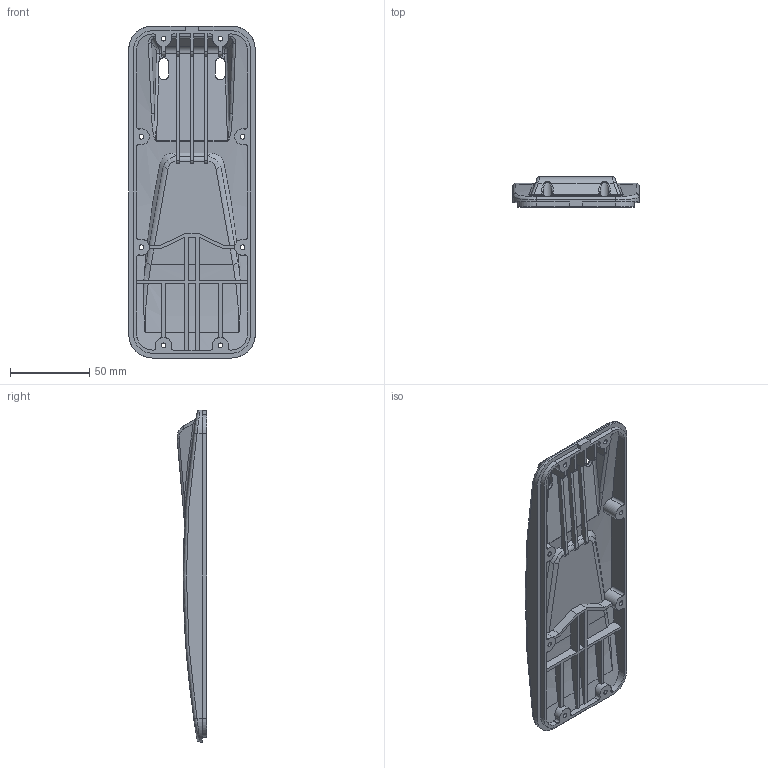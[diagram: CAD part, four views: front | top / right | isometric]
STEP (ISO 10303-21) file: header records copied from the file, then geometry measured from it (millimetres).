
FILE_DESCRIPTION((''),'2;1');
FILE_NAME('TOP-CPVER','2025-11-08T17:05:14',('vevem'),(''),'CREO PARAMETRIC BY PTC INC, 2024253','CREO PARAMETRIC BY PTC INC, 2024253','');
FILE_SCHEMA(('AUTOMOTIVE_DESIGN { 1 0 10303 214 1 1 1 1 }'));
Length unit declared in the file: millimetre
Products named in the file (1): TOP-CPVER
Bounding box: 80 x 18.97 x 210 mm (x, y, z)
Volume: 76240.4 mm3; surface area: 51915.7 mm2
Topology: 1 solids, 1 shells, 347 faces, 923 edges, 586 vertices
Faces by surface type: cylinder 158, plane 123, bspline 64, torus 2
Entity records: 17976 total; most frequent: CARTESIAN_POINT 6908, ORIENTED_EDGE 1846, DIRECTION 1549, PRESENTATION_STYLE_ASSIGNMENT 924, STYLED_ITEM 924, CURVE_STYLE 923, EDGE_CURVE 923, VERTEX_POINT 586
